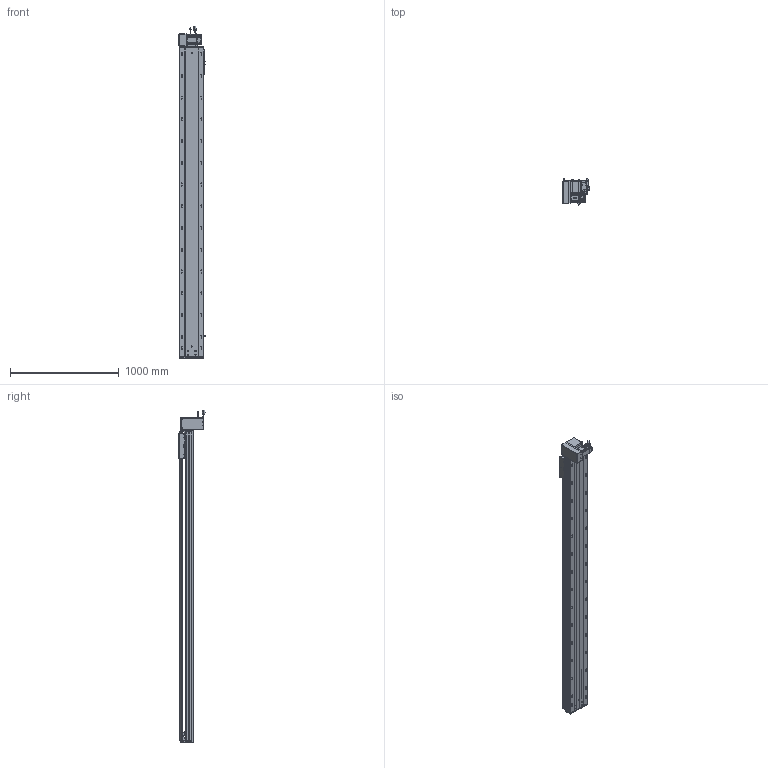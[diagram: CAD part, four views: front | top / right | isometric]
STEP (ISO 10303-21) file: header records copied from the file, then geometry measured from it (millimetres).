
FILE_DESCRIPTION (( 'STEP AP203' ), '1' );
FILE_NAME ('RY220-T-300-DL.SLDASM_2500.step', '2022-07-25T07:54:48', ( '' ), ( '' ), 'SwSTEP 2.0', 'SolidWorks 2016', '' );
FILE_SCHEMA (( 'CONFIG_CONTROL_DESIGN' ));
Length unit declared in the file: millimetre
Products named in the file (14): RY220翋肮祭謫裔啣; RY220-T-蛌殏萇儂假蚾啣(750W); 怢湛750W_ECMA-CX0807ES; RY220-同步轮副支撑座6304×2; RY220-俋离672覜茼んえ; RY220-T菁釱-300_2500; RY220-T-湍謫欶(鍼踢); RY220圉猾敕々湍臏賑輸; RY220-T-300-奻裔啣_2500; RY220-T-300-DL.SLDASM_2500; 110A-T-肮祭謫釱傷裔; 滅袉蝶18-15; 覜茼ん672; RY220翋肮祭謫釱
Assembly tree (18 placements, depth 2):
  RY220-T-300-DL.SLDASM_2500
    RY220-T菁釱-300_2500
    RY220翋肮祭謫釱
    覜茼ん672  x3
    RY220圉猾敕々湍臏賑輸
    RY220-T-300-奻裔啣_2500
    RY220-俋离672覜茼んえ
    滅袉蝶18-15  x3
    RY220翋肮祭謫裔啣  x2
    110A-T-肮祭謫釱傷裔
    怢湛750W_ECMA-CX0807ES
    RY220-T-湍謫欶(鍼踢)
    RY220-T-蛌殏萇儂假蚾啣(750W)
    RY220-同步轮副支撑座6304×2
Bounding box: 239.7 x 240.74 x 3053.27 mm (x, y, z)
Volume: 21965765.5 mm3; surface area: 6744922.3 mm2
Topology: 19 solids, 19 shells, 2936 faces, 8119 edges, 5096 vertices
Faces by surface type: cylinder 1436, plane 1069, cone 349, bspline 56, sphere 16, torus 10
Entity records: 97891 total; most frequent: CARTESIAN_POINT 27671, ORIENTED_EDGE 14522, DIRECTION 13972, EDGE_CURVE 7261, AXIS2_PLACEMENT_3D 5026, VERTEX_POINT 4720, LINE 3920, VECTOR 3920
